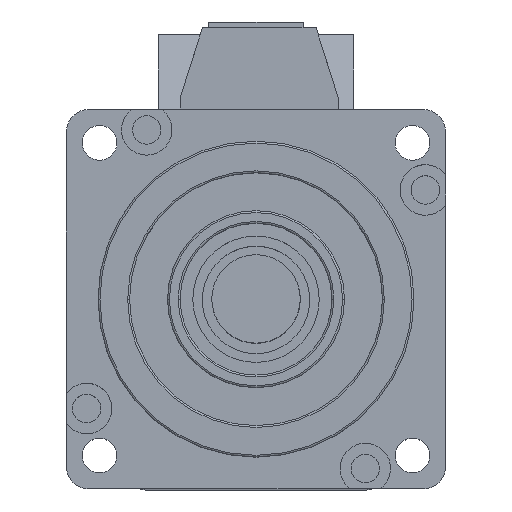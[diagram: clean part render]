
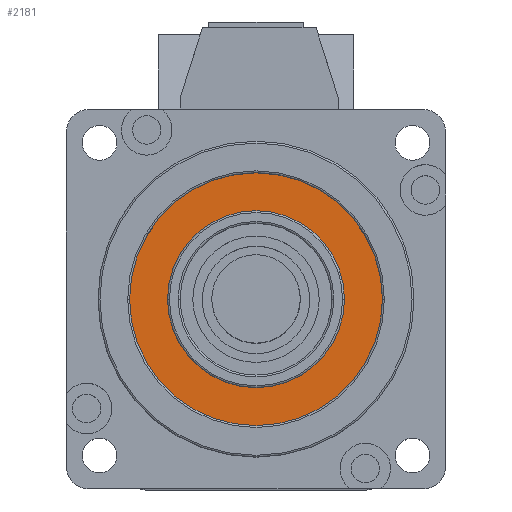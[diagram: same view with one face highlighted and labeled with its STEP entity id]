
A CAD part, top view. The second image highlights one B-rep face of the part: STEP entity #2181.
In plain terms, the highlighted planar face has unit normal (0, 0, 1).
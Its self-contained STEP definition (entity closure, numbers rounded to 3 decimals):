
#174 = AXIS2_PLACEMENT_3D ( 'NONE', #7128, #8559, #325 ) ;
#300 = FACE_OUTER_BOUND ( 'NONE', #7788, .T. ) ;
#325 = DIRECTION ( 'NONE',  ( 1., 0., 0. ) ) ;
#326 = VERTEX_POINT ( 'NONE', #3478 ) ;
#456 = EDGE_LOOP ( 'NONE', ( #4565, #2085 ) ) ;
#783 = ORIENTED_EDGE ( 'NONE', *, *, #3003, .T. ) ;
#1041 = EDGE_CURVE ( 'NONE', #8278, #5429, #4240, .T. ) ;
#1412 = AXIS2_PLACEMENT_3D ( 'NONE', #8283, #3739, #2332 ) ;
#1491 = CIRCLE ( 'NONE', #3798, 20. ) ;
#2072 = CARTESIAN_POINT ( 'NONE',  ( 50., 30., 0. ) ) ;
#2085 = ORIENTED_EDGE ( 'NONE', *, *, #1041, .F. ) ;
#2181 = ADVANCED_FACE ( 'NONE', ( #300, #5195 ), #6500, .F. ) ;
#2332 = DIRECTION ( 'NONE',  ( -1., 0., 0. ) ) ;
#2713 = DIRECTION ( 'NONE',  ( -1., 0., 0. ) ) ;
#2727 = CARTESIAN_POINT ( 'NONE',  ( 30., 30., 0. ) ) ;
#2787 = DIRECTION ( 'NONE',  ( 0., 0., 1. ) ) ;
#3003 = EDGE_CURVE ( 'NONE', #6899, #326, #4104, .T. ) ;
#3408 = DIRECTION ( 'NONE',  ( 1., 0., 0. ) ) ;
#3478 = CARTESIAN_POINT ( 'NONE',  ( 10., 30., 0. ) ) ;
#3550 = ORIENTED_EDGE ( 'NONE', *, *, #8874, .T. ) ;
#3739 = DIRECTION ( 'NONE',  ( 0., 0., 1. ) ) ;
#3798 = AXIS2_PLACEMENT_3D ( 'NONE', #2727, #6245, #3408 ) ;
#3947 = CARTESIAN_POINT ( 'NONE',  ( 44., 30., 0. ) ) ;
#4104 = CIRCLE ( 'NONE', #174, 20. ) ;
#4240 = CIRCLE ( 'NONE', #5053, 14. ) ;
#4565 = ORIENTED_EDGE ( 'NONE', *, *, #7091, .F. ) ;
#4766 = CARTESIAN_POINT ( 'NONE',  ( 30., 30., 0. ) ) ;
#5053 = AXIS2_PLACEMENT_3D ( 'NONE', #4766, #2787, #7626 ) ;
#5195 = FACE_BOUND ( 'NONE', #456, .T. ) ;
#5303 = CIRCLE ( 'NONE', #1412, 14. ) ;
#5429 = VERTEX_POINT ( 'NONE', #7700 ) ;
#6245 = DIRECTION ( 'NONE',  ( 0., 0., 1. ) ) ;
#6500 = PLANE ( 'NONE',  #8762 ) ;
#6563 = CARTESIAN_POINT ( 'NONE',  ( 3.5, 56.5, 0. ) ) ;
#6899 = VERTEX_POINT ( 'NONE', #2072 ) ;
#7091 = EDGE_CURVE ( 'NONE', #5429, #8278, #5303, .T. ) ;
#7128 = CARTESIAN_POINT ( 'NONE',  ( 30., 30., 0. ) ) ;
#7626 = DIRECTION ( 'NONE',  ( -1., 0., 0. ) ) ;
#7700 = CARTESIAN_POINT ( 'NONE',  ( 16., 30., 0. ) ) ;
#7788 = EDGE_LOOP ( 'NONE', ( #3550, #783 ) ) ;
#8278 = VERTEX_POINT ( 'NONE', #3947 ) ;
#8283 = CARTESIAN_POINT ( 'NONE',  ( 30., 30., 0. ) ) ;
#8559 = DIRECTION ( 'NONE',  ( 0., 0., 1. ) ) ;
#8697 = DIRECTION ( 'NONE',  ( 0., 0., -1. ) ) ;
#8762 = AXIS2_PLACEMENT_3D ( 'NONE', #6563, #8697, #2713 ) ;
#8874 = EDGE_CURVE ( 'NONE', #326, #6899, #1491, .T. ) ;
